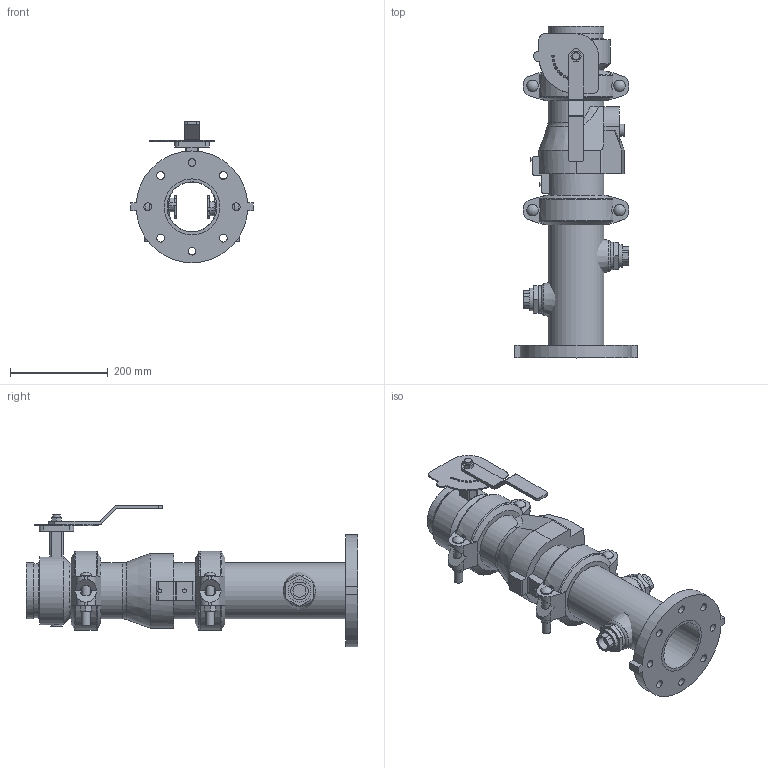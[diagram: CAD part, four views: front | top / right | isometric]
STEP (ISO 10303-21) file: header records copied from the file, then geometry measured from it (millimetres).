
FILE_DESCRIPTION(/* description */ ('VIC DVI PUMP DROP VERT S/390 (OGSxFLG)','CAx-IF Rec.Pracs.---Representation and Presentation of Product Manufacturing Information (PMI)---4.0---2014-10-13'),/* implementation_level */ '2;1');
FILE_NAME(/* name */ 'C:\Users\Vjadhav\AppData\Roaming\Autodesk\ApplicationPlugins\Back Up\Victaulic_IPS_Vertical DVI_PN10_Series 390 (OGSxFLG)\Victaulic_IPS_Vertical DVI_PN10_Series 390 (OGSxFLG)_04.0x04.0 (100x100).stp',/* time_stamp */ '2020-11-09T17:50:17+05:00',/* author */ ('Vjadhav'),/* organization */ ('Victaulic'),/* preprocessor_version */ 'ST-DEVELOPER v17.2',/* originating_system */ 'Autodesk Inventor 2019',/* authorisation */ '');
FILE_SCHEMA (('AP242_MANAGED_MODEL_BASED_3D_ENGINEERING_MIM_LF { 1 0 10303 442 1 1 4 }'));
Length unit declared in the file: inch
Products named in the file (7): 390-04.0x04.0; 741-04.0; Pipe-04.0x04.0; 177N-04.0; 761-04.0; 716-04.0; 923-04.0x0.75
Assembly tree (8 placements, depth 2):
  390-04.0x04.0
    741-04.0
    Pipe-04.0x04.0
    177N-04.0  x2
    761-04.0
    716-04.0
    923-04.0x0.75  x2
Bounding box: 250.95 x 678.94 x 289.31 mm (x, y, z)
Volume: 5308183.5 mm3; surface area: 939338.3 mm2
Topology: 8 solids, 9 shells, 497 faces, 1324 edges, 879 vertices
Faces by surface type: plane 293, cylinder 171, cone 14, torus 13, sphere 4, bspline 2
Full cylindrical faces by diameter (mm): 4.826 x10, 7.62 x2, 8.636 x4, 14.986 x2, 16.002 x8, 17.424 x4, 22.86 x1, 23.495 x4, 25.4 x1, 26.67 x2, 45.974 x4, 55.118 x1, 55.626 x2, 101.6 x2, 102.26 x2, 103.988 x1, 110.084 x6, 114.3 x16, 139.7 x1
Entity records: 11893 total; most frequent: CARTESIAN_POINT 2254, DIRECTION 1976, ORIENTED_EDGE 1834, EDGE_CURVE 917, AXIS2_PLACEMENT_3D 736, VERTEX_POINT 611, LINE 504, VECTOR 504
